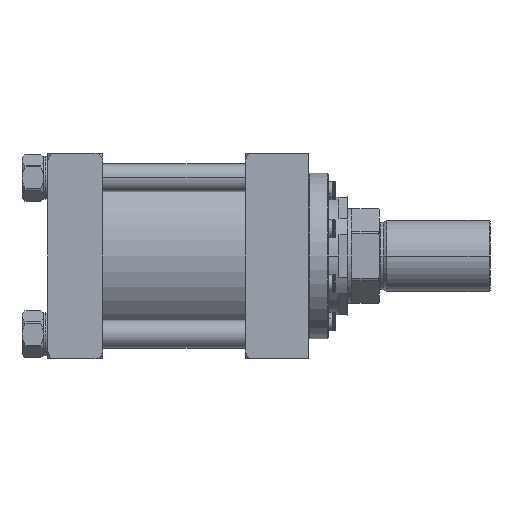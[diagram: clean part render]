
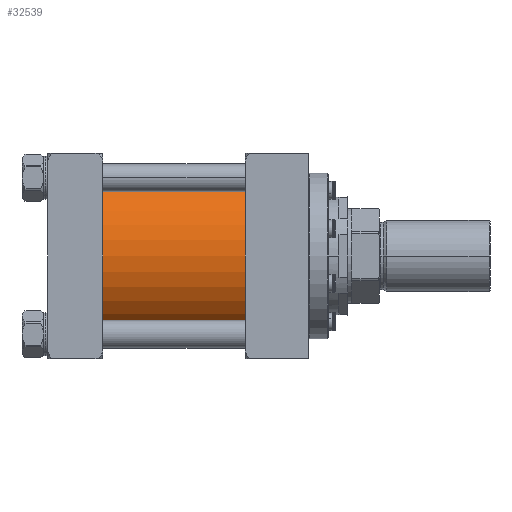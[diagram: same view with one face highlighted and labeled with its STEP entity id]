
A CAD part, front view. The second image highlights one B-rep face of the part: STEP entity #32539.
In plain terms, the highlighted cylindrical face has radius 73.025 mm (diameter 146.05 mm), a partial arc.
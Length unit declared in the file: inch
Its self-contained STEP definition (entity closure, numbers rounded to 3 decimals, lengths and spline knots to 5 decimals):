
#4672 = CARTESIAN_POINT ( 'NONE',  ( -9., 0., 2.875 ) ) ;
#6127 = CIRCLE ( 'NONE', #7689, 2.875 ) ;
#7689 = AXIS2_PLACEMENT_3D ( 'NONE', #52758, #51799, #9408 ) ;
#9408 = DIRECTION ( 'NONE',  ( 0., 1., 0. ) ) ;
#13688 = CYLINDRICAL_SURFACE ( 'NONE', #54782, 2.875 ) ;
#20317 = DIRECTION ( 'NONE',  ( 1., 0., 0. ) ) ;
#20847 = VERTEX_POINT ( 'NONE', #60860 ) ;
#22180 = DIRECTION ( 'NONE',  ( 1., 0., 0. ) ) ;
#24201 = ORIENTED_EDGE ( 'NONE', *, *, #30668, .F. ) ;
#26057 = VERTEX_POINT ( 'NONE', #86189 ) ;
#30635 = CIRCLE ( 'NONE', #54865, 2.875 ) ;
#30668 = EDGE_CURVE ( 'NONE', #26057, #20847, #84700, .T. ) ;
#31684 = DIRECTION ( 'NONE',  ( 0., 1., 0. ) ) ;
#32539 = ADVANCED_FACE ( 'NONE', ( #93766 ), #13688, .T. ) ;
#37711 = CARTESIAN_POINT ( 'NONE',  ( -4., 0., -2.875 ) ) ;
#37903 = EDGE_CURVE ( 'NONE', #20847, #58658, #30635, .T. ) ;
#37931 = LINE ( 'NONE', #80325, #63864 ) ;
#40528 = ORIENTED_EDGE ( 'NONE', *, *, #37903, .F. ) ;
#40969 = CARTESIAN_POINT ( 'NONE',  ( -9., 0., -2.875 ) ) ;
#42782 = CARTESIAN_POINT ( 'NONE',  ( -9., 0., 0. ) ) ;
#44966 = EDGE_CURVE ( 'NONE', #26057, #74114, #6127, .T. ) ;
#45210 = EDGE_CURVE ( 'NONE', #74114, #58658, #37931, .T. ) ;
#51799 = DIRECTION ( 'NONE',  ( 1., 0., 0. ) ) ;
#52758 = CARTESIAN_POINT ( 'NONE',  ( -9., 0., 0. ) ) ;
#53099 = DIRECTION ( 'NONE',  ( 1., 0., 0. ) ) ;
#54782 = AXIS2_PLACEMENT_3D ( 'NONE', #42782, #71780, #70351 ) ;
#54865 = AXIS2_PLACEMENT_3D ( 'NONE', #61437, #53099, #31684 ) ;
#58658 = VERTEX_POINT ( 'NONE', #37711 ) ;
#60331 = ORIENTED_EDGE ( 'NONE', *, *, #45210, .T. ) ;
#60510 = ORIENTED_EDGE ( 'NONE', *, *, #44966, .T. ) ;
#60860 = CARTESIAN_POINT ( 'NONE',  ( -4., 0., 2.875 ) ) ;
#61296 = EDGE_LOOP ( 'NONE', ( #24201, #60510, #60331, #40528 ) ) ;
#61437 = CARTESIAN_POINT ( 'NONE',  ( -4., 0., 0. ) ) ;
#63864 = VECTOR ( 'NONE', #22180, 39.37008 ) ;
#64125 = VECTOR ( 'NONE', #20317, 39.37008 ) ;
#70351 = DIRECTION ( 'NONE',  ( 0., 0., -1. ) ) ;
#71780 = DIRECTION ( 'NONE',  ( 1., 0., 0. ) ) ;
#74114 = VERTEX_POINT ( 'NONE', #40969 ) ;
#80325 = CARTESIAN_POINT ( 'NONE',  ( -9., 0., -2.875 ) ) ;
#84700 = LINE ( 'NONE', #4672, #64125 ) ;
#86189 = CARTESIAN_POINT ( 'NONE',  ( -9., 0., 2.875 ) ) ;
#93766 = FACE_OUTER_BOUND ( 'NONE', #61296, .T. ) ;
